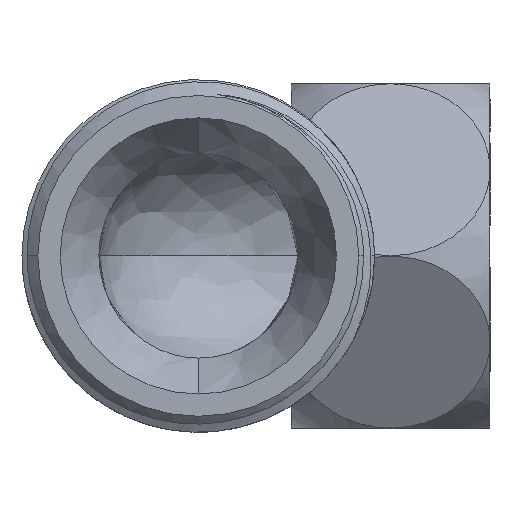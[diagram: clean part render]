
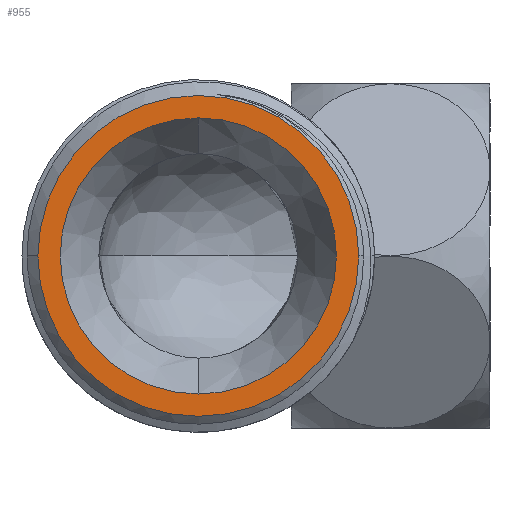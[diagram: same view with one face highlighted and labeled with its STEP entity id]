
A CAD part, front view. The second image highlights one B-rep face of the part: STEP entity #955.
In plain terms, the highlighted planar face has unit normal (0, -1, 0).
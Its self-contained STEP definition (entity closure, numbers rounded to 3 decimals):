
#129 = EDGE_CURVE ( 'NONE', #130, #131, #2215, .T. ) ;
#130 = VERTEX_POINT ( 'NONE', #2211 ) ;
#131 = VERTEX_POINT ( 'NONE', #2210 ) ;
#193 = EDGE_CURVE ( 'NONE', #272, #194, #2194, .T. ) ;
#194 = VERTEX_POINT ( 'NONE', #2515 ) ;
#226 = EDGE_CURVE ( 'NONE', #131, #130, #2734, .T. ) ;
#272 = VERTEX_POINT ( 'NONE', #3003 ) ;
#878 = EDGE_LOOP ( 'NONE', ( #879, #881 ) ) ;
#879 = ORIENTED_EDGE ( 'NONE', *, *, #880, .F. ) ;
#880 = EDGE_CURVE ( 'NONE', #194, #272, #6331, .T. ) ;
#881 = ORIENTED_EDGE ( 'NONE', *, *, #193, .F. ) ;
#882 = EDGE_LOOP ( 'NONE', ( #883, #884 ) ) ;
#883 = ORIENTED_EDGE ( 'NONE', *, *, #226, .T. ) ;
#884 = ORIENTED_EDGE ( 'NONE', *, *, #129, .T. ) ;
#955 = ADVANCED_FACE ( 'NONE', ( #6382, #6381 ), #6379, .T. ) ;
#2169 = CARTESIAN_POINT ( 'NONE',  ( 0., -26., 0. ) ) ;
#2192 = DIRECTION ( 'NONE',  ( 0., -1., 0. ) ) ;
#2193 = AXIS2_PLACEMENT_3D ( 'NONE', #2201, #2192, #2459 ) ;
#2194 = CIRCLE ( 'NONE', #2193, 10.416 ) ;
#2201 = CARTESIAN_POINT ( 'NONE',  ( 0., -26., 0. ) ) ;
#2210 = CARTESIAN_POINT ( 'NONE',  ( -12.1, -26., 0. ) ) ;
#2211 = CARTESIAN_POINT ( 'NONE',  ( 12.1, -26., 0. ) ) ;
#2212 = DIRECTION ( 'NONE',  ( 1., 0., 0. ) ) ;
#2213 = DIRECTION ( 'NONE',  ( 0., -1., 0. ) ) ;
#2214 = AXIS2_PLACEMENT_3D ( 'NONE', #2169, #2213, #2212 ) ;
#2215 = CIRCLE ( 'NONE', #2214, 12.1 ) ;
#2459 = DIRECTION ( 'NONE',  ( 1., 0., 0. ) ) ;
#2515 = CARTESIAN_POINT ( 'NONE',  ( 0., -26., -10.416 ) ) ;
#2730 = DIRECTION ( 'NONE',  ( 1., 0., 0. ) ) ;
#2731 = DIRECTION ( 'NONE',  ( 0., -1., 0. ) ) ;
#2732 = CARTESIAN_POINT ( 'NONE',  ( 0., -26., 0. ) ) ;
#2733 = AXIS2_PLACEMENT_3D ( 'NONE', #2732, #2731, #2730 ) ;
#2734 = CIRCLE ( 'NONE', #2733, 12.1 ) ;
#3003 = CARTESIAN_POINT ( 'NONE',  ( 0., -26., 10.416 ) ) ;
#6327 = DIRECTION ( 'NONE',  ( 1., 0., 0. ) ) ;
#6328 = DIRECTION ( 'NONE',  ( 0., -1., 0. ) ) ;
#6329 = CARTESIAN_POINT ( 'NONE',  ( 0., -26., 0. ) ) ;
#6330 = AXIS2_PLACEMENT_3D ( 'NONE', #6329, #6328, #6327 ) ;
#6331 = CIRCLE ( 'NONE', #6330, 10.416 ) ;
#6367 = DIRECTION ( 'NONE',  ( 1., 0., 0. ) ) ;
#6368 = DIRECTION ( 'NONE',  ( 0., -1., 0. ) ) ;
#6377 = AXIS2_PLACEMENT_3D ( 'NONE', #6378, #6368, #6367 ) ;
#6378 = CARTESIAN_POINT ( 'NONE',  ( 0., -26., 0. ) ) ;
#6379 = PLANE ( 'NONE',  #6377 ) ;
#6381 = FACE_OUTER_BOUND ( 'NONE', #882, .T. ) ;
#6382 = FACE_BOUND ( 'NONE', #878, .T. ) ;
